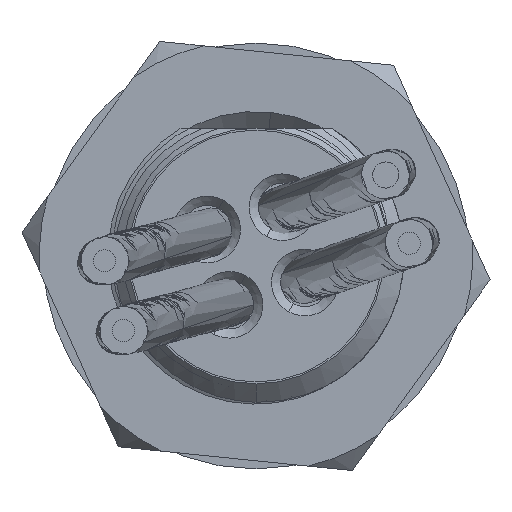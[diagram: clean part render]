
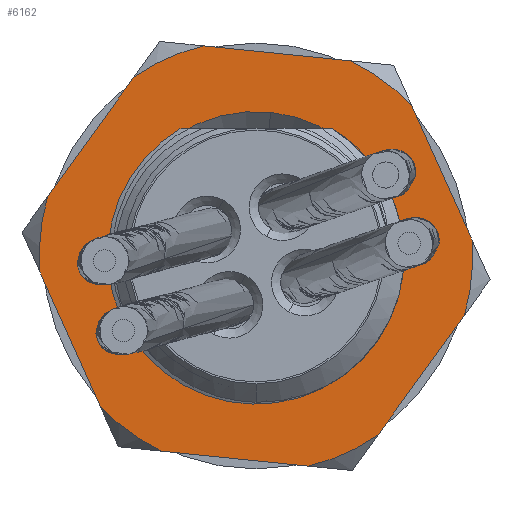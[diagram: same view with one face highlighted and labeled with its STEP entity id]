
A CAD part, left-side view. The second image highlights one B-rep face of the part: STEP entity #6162.
In plain terms, the highlighted planar face has unit normal (-1, 0, 0) as drawn and (0, 0, -1) by its records, which use the part's own axes.
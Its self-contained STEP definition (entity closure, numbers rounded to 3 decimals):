
#184 = EDGE_CURVE ( 'NONE', #30553, #31699, #36145, .T. ) ;
#216 = EDGE_CURVE ( 'NONE', #35174, #464, #12518, .T. ) ;
#440 = VECTOR ( 'NONE', #9917, 1000. ) ;
#464 = VERTEX_POINT ( 'NONE', #18200 ) ;
#502 = VERTEX_POINT ( 'NONE', #6143 ) ;
#563 = DIRECTION ( 'NONE',  ( -1., 0., 0. ) ) ;
#798 = EDGE_CURVE ( 'NONE', #15323, #502, #20065, .T. ) ;
#1129 = ORIENTED_EDGE ( 'NONE', *, *, #10306, .T. ) ;
#1299 = EDGE_CURVE ( 'NONE', #18756, #13535, #12009, .T. ) ;
#1341 = DIRECTION ( 'NONE',  ( 0., 0., 1. ) ) ;
#1447 = CARTESIAN_POINT ( 'NONE',  ( -5.5, 3.175, 0. ) ) ;
#1673 = DIRECTION ( 'NONE',  ( -1., 0., 0. ) ) ;
#1779 = LINE ( 'NONE', #29535, #27825 ) ;
#1889 = DIRECTION ( 'NONE',  ( 0.866, -0.5, 0. ) ) ;
#2290 = CARTESIAN_POINT ( 'NONE',  ( 4.478, 3.765, 0. ) ) ;
#2324 = LINE ( 'NONE', #15746, #440 ) ;
#2907 = AXIS2_PLACEMENT_3D ( 'NONE', #28934, #4862, #1673 ) ;
#3210 = AXIS2_PLACEMENT_3D ( 'NONE', #36320, #8698, #5922 ) ;
#3434 = DIRECTION ( 'NONE',  ( -1., 0., 0. ) ) ;
#3674 = EDGE_CURVE ( 'NONE', #9693, #35925, #28962, .T. ) ;
#4862 = DIRECTION ( 'NONE',  ( 0., 0., 1. ) ) ;
#5044 = ORIENTED_EDGE ( 'NONE', *, *, #36698, .F. ) ;
#5184 = CARTESIAN_POINT ( 'NONE',  ( 5.5, 1.996, 0. ) ) ;
#5277 = CARTESIAN_POINT ( 'NONE',  ( 5.5, 3.175, 0. ) ) ;
#5922 = DIRECTION ( 'NONE',  ( -1., 0., 0. ) ) ;
#6143 = CARTESIAN_POINT ( 'NONE',  ( 1.022, -5.761, 0. ) ) ;
#6162 = ADVANCED_FACE ( 'NONE', ( #10890, #21822 ), #35404, .T. ) ;
#6218 = CARTESIAN_POINT ( 'NONE',  ( 5.5, -1.996, 0. ) ) ;
#6245 = CARTESIAN_POINT ( 'NONE',  ( 1.022, 5.761, 0. ) ) ;
#7820 = CARTESIAN_POINT ( 'NONE',  ( 0., 0., 0. ) ) ;
#7932 = CIRCLE ( 'NONE', #39108, 3.9 ) ;
#8323 = AXIS2_PLACEMENT_3D ( 'NONE', #38877, #24000, #21093 ) ;
#8698 = DIRECTION ( 'NONE',  ( 0., 0., 1. ) ) ;
#9693 = VERTEX_POINT ( 'NONE', #2290 ) ;
#9820 = EDGE_CURVE ( 'NONE', #31699, #15323, #1779, .T. ) ;
#9850 = EDGE_LOOP ( 'NONE', ( #16230, #1129 ) ) ;
#9917 = DIRECTION ( 'NONE',  ( 0., 1., 0. ) ) ;
#10306 = EDGE_CURVE ( 'NONE', #14594, #38798, #7932, .T. ) ;
#10316 = ORIENTED_EDGE ( 'NONE', *, *, #18510, .F. ) ;
#10890 = FACE_BOUND ( 'NONE', #9850, .T. ) ;
#11101 = AXIS2_PLACEMENT_3D ( 'NONE', #29825, #17544, #38759 ) ;
#11366 = CARTESIAN_POINT ( 'NONE',  ( -3.9, 0., 0. ) ) ;
#11621 = AXIS2_PLACEMENT_3D ( 'NONE', #7820, #1341, #34913 ) ;
#12009 = CIRCLE ( 'NONE', #2907, 5.851 ) ;
#12210 = EDGE_CURVE ( 'NONE', #35925, #32716, #16395, .T. ) ;
#12518 = CIRCLE ( 'NONE', #11101, 5.851 ) ;
#12603 = AXIS2_PLACEMENT_3D ( 'NONE', #19240, #22385, #34643 ) ;
#12755 = EDGE_LOOP ( 'NONE', ( #34392, #33088, #24423, #10316, #25102, #37497, #5044, #36473, #35772, #18327, #31285, #37431 ) ) ;
#13136 = DIRECTION ( 'NONE',  ( -0.866, 0.5, 0. ) ) ;
#13176 = CIRCLE ( 'NONE', #12603, 3.9 ) ;
#13429 = CARTESIAN_POINT ( 'NONE',  ( -1.022, -5.761, 0. ) ) ;
#13535 = VERTEX_POINT ( 'NONE', #6218 ) ;
#13549 = LINE ( 'NONE', #1447, #34363 ) ;
#14137 = EDGE_CURVE ( 'NONE', #35174, #30553, #13549, .T. ) ;
#14594 = VERTEX_POINT ( 'NONE', #25229 ) ;
#15130 = CARTESIAN_POINT ( 'NONE',  ( 4.478, -3.765, 0. ) ) ;
#15323 = VERTEX_POINT ( 'NONE', #13429 ) ;
#15746 = CARTESIAN_POINT ( 'NONE',  ( 5.5, -3.175, 0. ) ) ;
#16230 = ORIENTED_EDGE ( 'NONE', *, *, #27073, .T. ) ;
#16395 = CIRCLE ( 'NONE', #19209, 5.851 ) ;
#16696 = CARTESIAN_POINT ( 'NONE',  ( -4.478, -3.765, 0. ) ) ;
#17327 = DIRECTION ( 'NONE',  ( 0., 0., -1. ) ) ;
#17544 = DIRECTION ( 'NONE',  ( 0., 0., -1. ) ) ;
#17557 = VERTEX_POINT ( 'NONE', #5184 ) ;
#17682 = VECTOR ( 'NONE', #24619, 1000. ) ;
#18200 = CARTESIAN_POINT ( 'NONE',  ( -4.478, 3.765, 0. ) ) ;
#18327 = ORIENTED_EDGE ( 'NONE', *, *, #35936, .F. ) ;
#18510 = EDGE_CURVE ( 'NONE', #32716, #464, #23355, .T. ) ;
#18698 = DIRECTION ( 'NONE',  ( 0., 0., 1. ) ) ;
#18756 = VERTEX_POINT ( 'NONE', #15130 ) ;
#19209 = AXIS2_PLACEMENT_3D ( 'NONE', #30784, #21829, #3434 ) ;
#19240 = CARTESIAN_POINT ( 'NONE',  ( 0., 0., 0. ) ) ;
#19519 = VECTOR ( 'NONE', #13136, 1000. ) ;
#20065 = CIRCLE ( 'NONE', #11621, 5.851 ) ;
#20076 = CIRCLE ( 'NONE', #3210, 5.851 ) ;
#21093 = DIRECTION ( 'NONE',  ( -1., 0., 0. ) ) ;
#21822 = FACE_OUTER_BOUND ( 'NONE', #12755, .T. ) ;
#21829 = DIRECTION ( 'NONE',  ( 0., 0., 1. ) ) ;
#22385 = DIRECTION ( 'NONE',  ( 0., 0., 1. ) ) ;
#23355 = LINE ( 'NONE', #26495, #35166 ) ;
#24000 = DIRECTION ( 'NONE',  ( 0., 0., 1. ) ) ;
#24423 = ORIENTED_EDGE ( 'NONE', *, *, #216, .T. ) ;
#24619 = DIRECTION ( 'NONE',  ( 0.866, 0.5, 0. ) ) ;
#25102 = ORIENTED_EDGE ( 'NONE', *, *, #12210, .F. ) ;
#25229 = CARTESIAN_POINT ( 'NONE',  ( 3.9, 0., 0. ) ) ;
#25282 = CARTESIAN_POINT ( 'NONE',  ( -5.5, -1.996, 0. ) ) ;
#25691 = EDGE_CURVE ( 'NONE', #13535, #17557, #2324, .T. ) ;
#25767 = DIRECTION ( 'NONE',  ( 0., -1., 0. ) ) ;
#26495 = CARTESIAN_POINT ( 'NONE',  ( 0., 6.351, 0. ) ) ;
#27073 = EDGE_CURVE ( 'NONE', #38798, #14594, #13176, .T. ) ;
#27692 = CARTESIAN_POINT ( 'NONE',  ( 5.5, 3.175, 0. ) ) ;
#27825 = VECTOR ( 'NONE', #1889, 1000. ) ;
#28934 = CARTESIAN_POINT ( 'NONE',  ( 0., 0., 0. ) ) ;
#28962 = LINE ( 'NONE', #27692, #19519 ) ;
#29535 = CARTESIAN_POINT ( 'NONE',  ( -5.5, -3.175, 0. ) ) ;
#29825 = CARTESIAN_POINT ( 'NONE',  ( 0., 0., 0. ) ) ;
#30321 = CARTESIAN_POINT ( 'NONE',  ( -1.022, 5.761, 0. ) ) ;
#30444 = CARTESIAN_POINT ( 'NONE',  ( 0., -6.351, 0. ) ) ;
#30553 = VERTEX_POINT ( 'NONE', #25282 ) ;
#30784 = CARTESIAN_POINT ( 'NONE',  ( 0., 0., 0. ) ) ;
#30826 = CARTESIAN_POINT ( 'NONE',  ( 0., 0., 0. ) ) ;
#31285 = ORIENTED_EDGE ( 'NONE', *, *, #798, .F. ) ;
#31699 = VERTEX_POINT ( 'NONE', #16696 ) ;
#32485 = DIRECTION ( 'NONE',  ( -1., 0., 0. ) ) ;
#32716 = VERTEX_POINT ( 'NONE', #30321 ) ;
#33063 = CARTESIAN_POINT ( 'NONE',  ( -5.5, 1.996, 0. ) ) ;
#33088 = ORIENTED_EDGE ( 'NONE', *, *, #14137, .F. ) ;
#34363 = VECTOR ( 'NONE', #25767, 1000. ) ;
#34386 = AXIS2_PLACEMENT_3D ( 'NONE', #5277, #17327, #32485 ) ;
#34392 = ORIENTED_EDGE ( 'NONE', *, *, #184, .F. ) ;
#34643 = DIRECTION ( 'NONE',  ( -1., 0., 0. ) ) ;
#34913 = DIRECTION ( 'NONE',  ( -1., 0., 0. ) ) ;
#35166 = VECTOR ( 'NONE', #38613, 1000. ) ;
#35174 = VERTEX_POINT ( 'NONE', #33063 ) ;
#35404 = PLANE ( 'NONE',  #34386 ) ;
#35615 = LINE ( 'NONE', #30444, #17682 ) ;
#35772 = ORIENTED_EDGE ( 'NONE', *, *, #1299, .F. ) ;
#35925 = VERTEX_POINT ( 'NONE', #6245 ) ;
#35936 = EDGE_CURVE ( 'NONE', #502, #18756, #35615, .T. ) ;
#36145 = CIRCLE ( 'NONE', #8323, 5.851 ) ;
#36320 = CARTESIAN_POINT ( 'NONE',  ( 0., 0., 0. ) ) ;
#36473 = ORIENTED_EDGE ( 'NONE', *, *, #25691, .F. ) ;
#36698 = EDGE_CURVE ( 'NONE', #17557, #9693, #20076, .T. ) ;
#37431 = ORIENTED_EDGE ( 'NONE', *, *, #9820, .F. ) ;
#37497 = ORIENTED_EDGE ( 'NONE', *, *, #3674, .F. ) ;
#38613 = DIRECTION ( 'NONE',  ( -0.866, -0.5, 0. ) ) ;
#38759 = DIRECTION ( 'NONE',  ( -1., 0., 0. ) ) ;
#38798 = VERTEX_POINT ( 'NONE', #11366 ) ;
#38877 = CARTESIAN_POINT ( 'NONE',  ( 0., 0., 0. ) ) ;
#39108 = AXIS2_PLACEMENT_3D ( 'NONE', #30826, #18698, #563 ) ;
